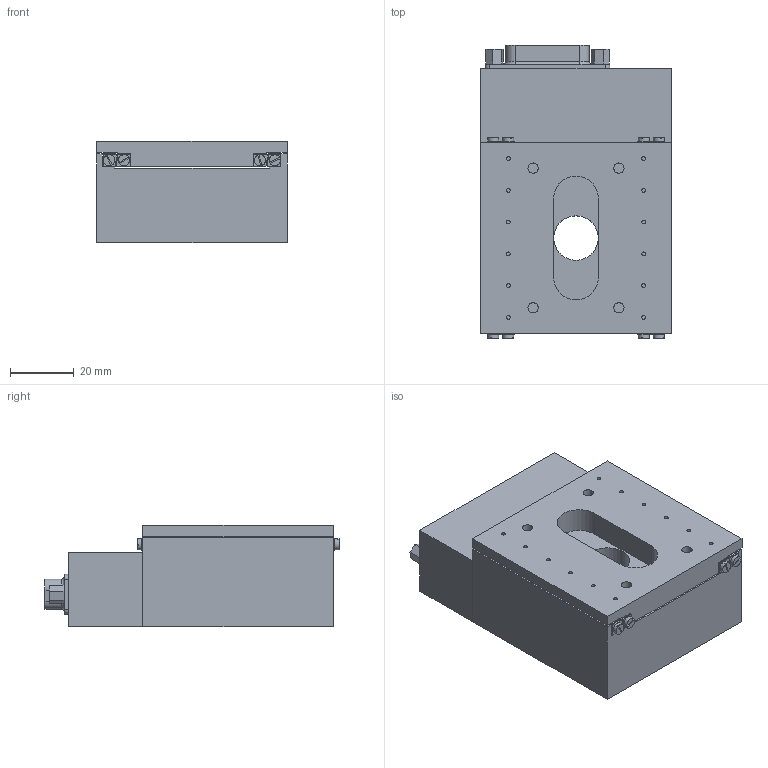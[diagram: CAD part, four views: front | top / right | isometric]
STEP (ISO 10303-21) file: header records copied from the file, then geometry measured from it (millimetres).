
FILE_DESCRIPTION(/* description */ (''),/* implementation_level */ '2;1');
FILE_NAME(/* name */ 'H:\Inventor\Katalog\3D-CAD-Modelle\STP neu\PT3-Nxxx-CAD.stp',/* time_stamp */ '2024-01-19T11:34:25+01:00',/* author */ ('KON3'),/* organization */ (''),/* preprocessor_version */ 'ST-DEVELOPER v18',/* originating_system */ 'Autodesk Inventor 2020',/* authorisation */ '');
FILE_SCHEMA (('AUTOMOTIVE_DESIGN { 1 0 10303 214 3 1 1 }'));
Length unit declared in the file: millimetre
Products named in the file (3): PT3-Nxxx-CAD; PT3-Nxxx_unten; PT3-Nxxx_oben
Assembly tree (2 placements, depth 2):
  PT3-Nxxx-CAD
    PT3-Nxxx_unten
    PT3-Nxxx_oben
Bounding box: 60 x 92.6 x 32 mm (x, y, z)
Volume: 117643.3 mm3; surface area: 45076.2 mm2
Topology: 34 solids, 34 shells, 836 faces, 2115 edges, 1451 vertices
Faces by surface type: plane 454, cylinder 240, bspline 70, cone 50, torus 22
Full cylindrical faces by diameter (mm): 1 x30, 1.183 x18, 1.321 x8, 1.567 x24, 1.7 x8, 1.783 x6, 2 x22, 2.013 x10, 2.156 x2, 2.256 x2, 2.4 x6, 2.5 x2, 2.8 x2, 3 x26, 3.2 x2, 3.242 x4, 3.5 x8, 4.3 x6, 5.5 x6, 14 x1
Entity records: 27608 total; most frequent: CARTESIAN_POINT 5817, DIRECTION 4366, ORIENTED_EDGE 4180, EDGE_CURVE 2090, AXIS2_PLACEMENT_3D 1645, VERTEX_POINT 1451, EDGE_LOOP 1087, LINE 1076
